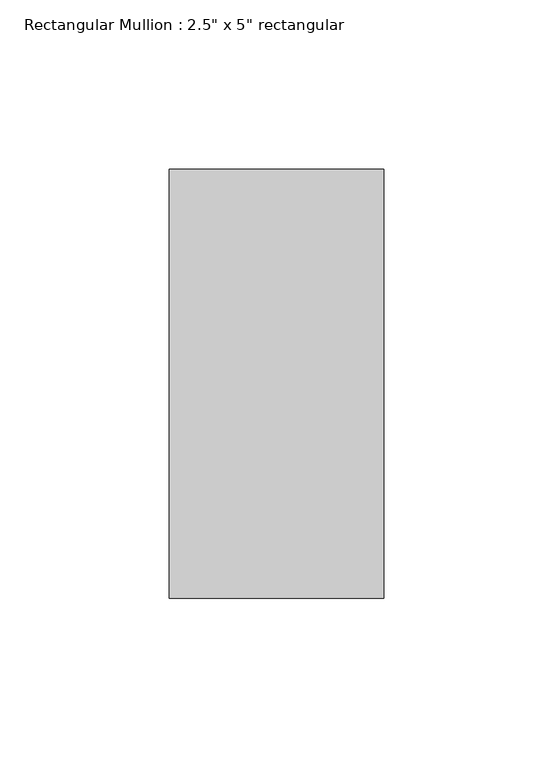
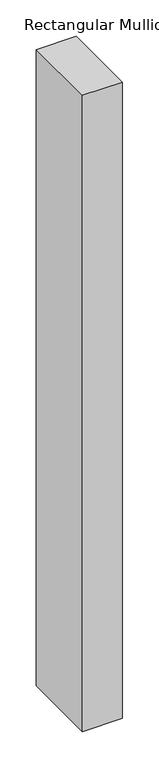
"""IFC4 building model written with IfcOpenShell, lengths in millimetres: member geometry."""

from ifc_helpers import new_model, si_unit, frame, origin, place, context, project, spatial, polyline, outline, extrude, source, transform, mapped, element, save


def member_d1490fb0(model_context):
    return source(origin(), model_context, "Body", "SweptSolid", [
        extrude(outline(polyline([(31.75, 63.5), (31.75, -63.5), (-31.75, -63.5), (-31.75, 63.5), (31.75, 63.5)])), frame((0.0, 0.0, -1068.6142856), z_axis=(0.0, 0.0, 1.0), x_axis=(1.0, 0.0, 0.0)), (0.0, 0.0, 1.0), 1068.6142856),
    ])


if __name__ == "__main__":
    model = new_model("IFC4")
    model_context = context("Model", 3, world=origin())
    ifc_project = project(units=[si_unit("LENGTHUNIT", "METRE", prefix="MILLI")], contexts=[model_context])
    site = spatial("IfcSite", under=ifc_project)
    building = spatial("IfcBuilding", under=site)
    placement = place(None, origin())
    member_shape = member_d1490fb0(model_context)
    element("IfcMember", 1, ObjectType="Rectangular Mullion : 2.5\" x 5\" rectangular", at=placement, inside=building, context=model_context, shape_type="MappedRepresentation", body=[
        mapped(member_shape, transform((0.0, 0.0, 0.0), x_axis=(1.0, 0.0, 0.0), y_axis=(0.0, 1.0, 0.0), z_axis=(0.0, 0.0, 1.0))),
    ])
    save(model, "model.ifc")
